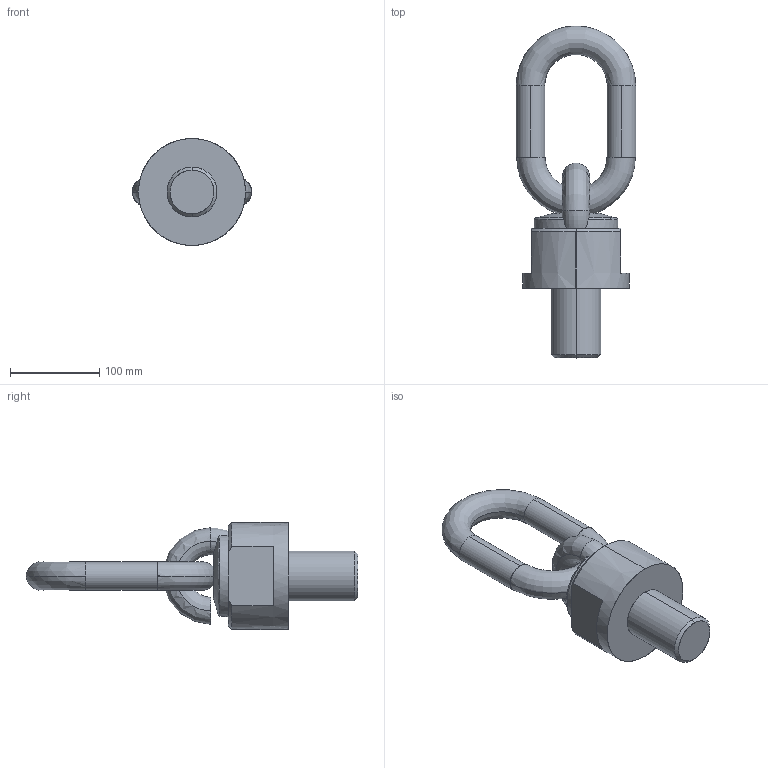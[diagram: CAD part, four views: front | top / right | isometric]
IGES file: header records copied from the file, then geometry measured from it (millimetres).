
Start section: START RECORD GO HERE.
Global section: file name: C800X1805678.igs; native system: DASSAULT SYSTEMES CATIA V5 R20 - www.3ds.com; preprocessor: CATIA Version 5 Release 20 ; author: Utente; organization: NB04-ASUS; date: 20200412.221248; units: millimetre
Bounding box: 134 x 372 x 120 mm (x, y, z)
Surface area: 120626.7 mm2 (no closed solid volume)
Topology: 0 solids, 0 shells, 42 faces, 232 edges, 232 vertices
Faces by surface type: revolution 30, extrusion 12
